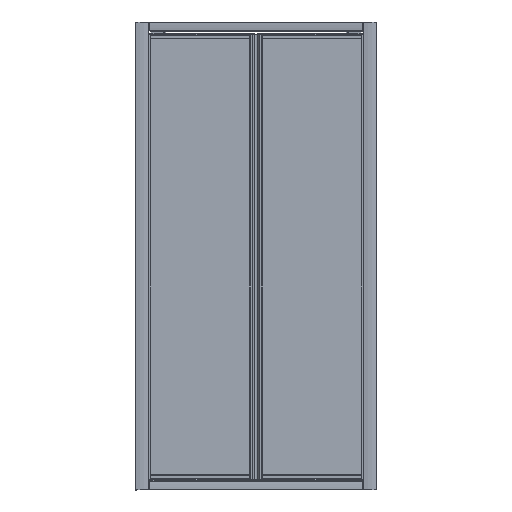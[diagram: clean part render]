
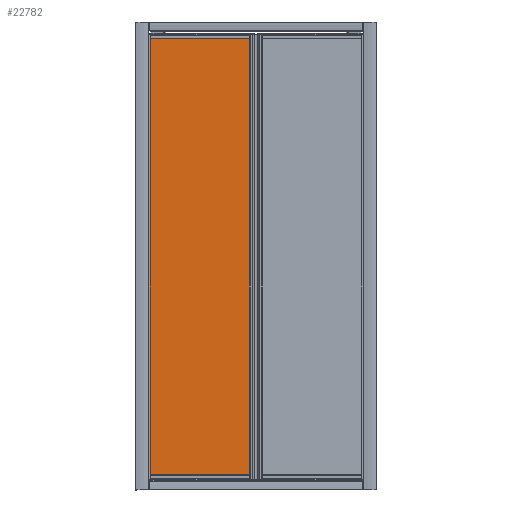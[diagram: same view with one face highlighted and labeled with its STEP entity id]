
A CAD part, left-side view. The second image highlights one B-rep face of the part: STEP entity #22782.
In plain terms, the highlighted planar face has unit normal (-1, 0, 0) as drawn and (0, 0, -1) by its records, which use the part's own axes.
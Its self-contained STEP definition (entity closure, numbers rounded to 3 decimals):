
#1078=PLANE('',#24868);
#2672=LINE('',#38455,#4671);
#2676=LINE('',#38462,#4675);
#2679=LINE('',#38468,#4678);
#2681=LINE('',#38471,#4680);
#4671=VECTOR('',#30423,1740.);
#4675=VECTOR('',#30429,410.);
#4678=VECTOR('',#30434,1740.);
#4680=VECTOR('',#30438,410.);
#6590=FACE_OUTER_BOUND('',#7932,.T.);
#7932=EDGE_LOOP('',(#19598,#19599,#19600,#19601));
#10932=VERTEX_POINT('',#38452);
#10933=VERTEX_POINT('',#38454);
#10935=VERTEX_POINT('',#38460);
#10937=VERTEX_POINT('',#38466);
#13918=EDGE_CURVE('',#10933,#10932,#2672,.T.);
#13922=EDGE_CURVE('',#10932,#10935,#2676,.T.);
#13925=EDGE_CURVE('',#10935,#10937,#2679,.T.);
#13927=EDGE_CURVE('',#10937,#10933,#2681,.T.);
#19598=ORIENTED_EDGE('',*,*,#13927,.T.);
#19599=ORIENTED_EDGE('',*,*,#13918,.T.);
#19600=ORIENTED_EDGE('',*,*,#13922,.T.);
#19601=ORIENTED_EDGE('',*,*,#13925,.T.);
#22782=ADVANCED_FACE('',(#6590),#1078,.F.);
#24868=AXIS2_PLACEMENT_3D('',#38473,#30441,#30442);
#30423=DIRECTION('',(0.,-1.,0.));
#30429=DIRECTION('',(-1.,0.,0.));
#30434=DIRECTION('',(0.,1.,0.));
#30438=DIRECTION('',(1.,0.,0.));
#30441=DIRECTION('center_axis',(0.,0.,1.));
#30442=DIRECTION('ref_axis',(1.,0.,0.));
#38452=CARTESIAN_POINT('',(-532.997,-1423.893,0.));
#38454=CARTESIAN_POINT('',(-532.997,316.107,0.));
#38455=CARTESIAN_POINT('',(-532.997,316.107,0.));
#38460=CARTESIAN_POINT('',(-942.997,-1423.893,0.));
#38462=CARTESIAN_POINT('',(-532.997,-1423.893,0.));
#38466=CARTESIAN_POINT('',(-942.997,316.107,0.));
#38468=CARTESIAN_POINT('',(-942.997,-1423.893,0.));
#38471=CARTESIAN_POINT('',(-942.997,316.107,0.));
#38473=CARTESIAN_POINT('Origin',(-737.997,-553.893,0.));
